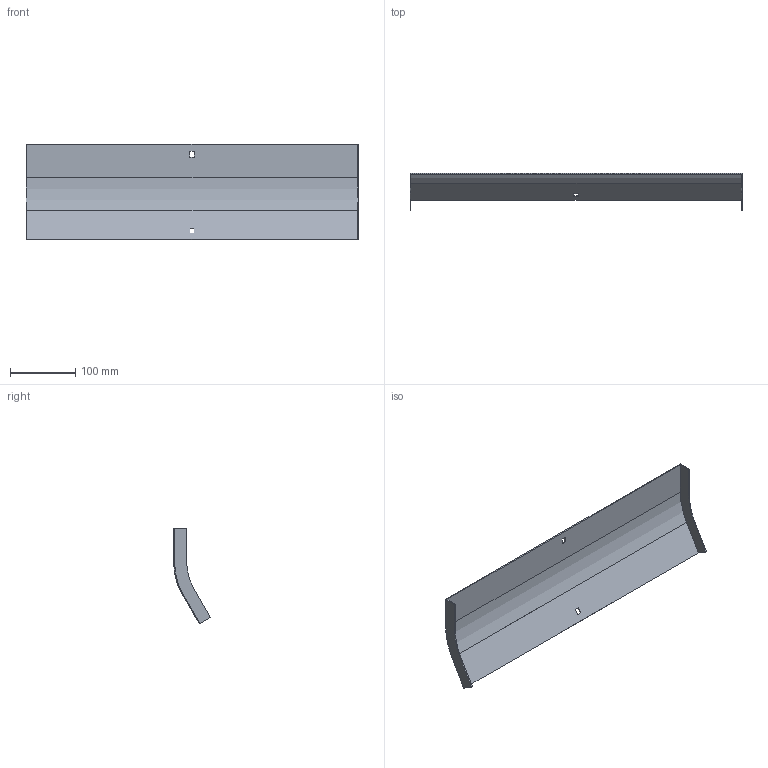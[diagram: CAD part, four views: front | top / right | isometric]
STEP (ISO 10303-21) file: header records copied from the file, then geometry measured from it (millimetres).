
FILE_DESCRIPTION (( 'STEP AP214' ), '1' );
FILE_NAME ('35G1C500.step', '2025-02-21T12:42:05', ( '' ), ( '' ), 'SwSTEP 2.0', 'SolidWorks 2023', '' );
FILE_SCHEMA (( 'AUTOMOTIVE_DESIGN' ));
Length unit declared in the file: millimetre
Products named in the file (1): 35G1C500
Bounding box: 507 x 56.52 x 146.29 mm (x, y, z)
Volume: 126138.4 mm3; surface area: 170345.9 mm2
Topology: 1 solids, 1 shells, 26 faces, 72 edges, 48 vertices
Faces by surface type: plane 22, cylinder 4
Entity records: 855 total; most frequent: CARTESIAN_POINT 147, ORIENTED_EDGE 144, DIRECTION 134, EDGE_CURVE 72, LINE 64, VECTOR 64, VERTEX_POINT 48, AXIS2_PLACEMENT_3D 35
